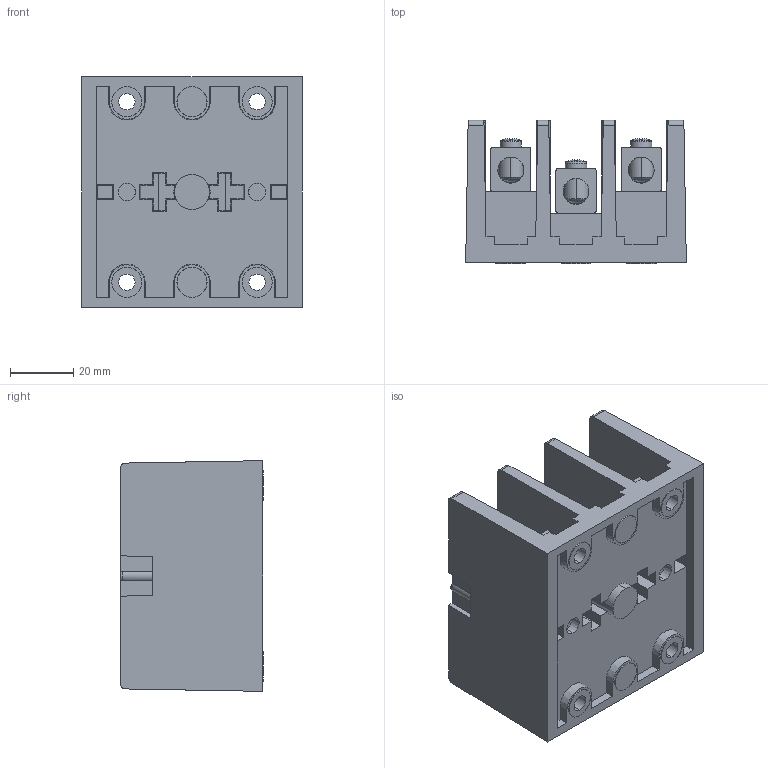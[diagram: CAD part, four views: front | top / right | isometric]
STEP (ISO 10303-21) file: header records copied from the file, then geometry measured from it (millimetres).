
FILE_DESCRIPTION (( 'STEP AP214' ), '1' );
FILE_NAME ('1423552.STEP', '2012-04-04T19:27:51', ( 'RBC' ), ( 'RBC' ), 'SwSTEP 2.0', 'SolidWorks 2011', '' );
FILE_SCHEMA (( 'AUTOMOTIVE_DESIGN' ));
Length unit declared in the file: inch
Products named in the file (5): 1423552; 9811213_Drawing Insert; 9725204; 96809XX_Slot no thd; 98125XX_9812516
Assembly tree (13 placements, depth 2):
  1423552
    98125XX_9812516  x3
    9725204  x3
    96809XX_Slot no thd  x6
    9811213_Drawing Insert
Bounding box: 69.85 x 45.24 x 73.03 mm (x, y, z)
Volume: 105253.5 mm3; surface area: 55119.3 mm2
Topology: 13 solids, 13 shells, 677 faces, 1783 edges, 1174 vertices
Faces by surface type: plane 368, cylinder 179, cone 89, sphere 18, torus 14, bspline 9
Entity records: 16473 total; most frequent: CARTESIAN_POINT 4792, ORIENTED_EDGE 2442, DIRECTION 2280, EDGE_CURVE 1221, LINE 842, VECTOR 842, VERTEX_POINT 804, AXIS2_PLACEMENT_3D 719
